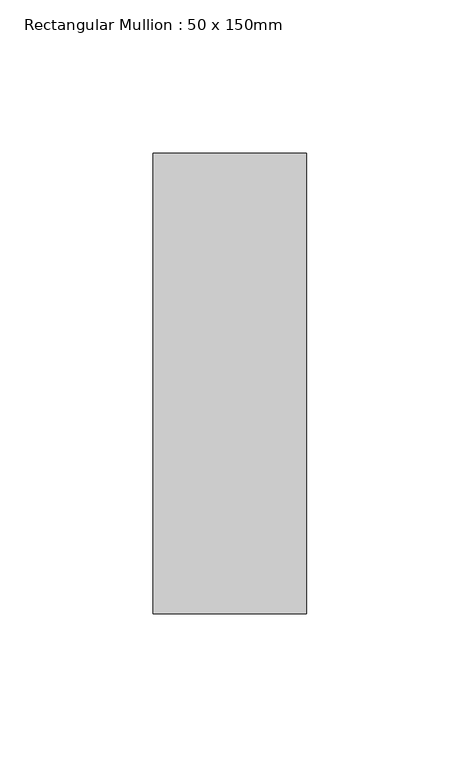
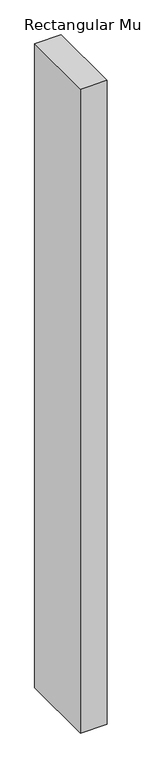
"""IFC4 building model written with IfcOpenShell, lengths in millimetres: member geometry, Rectangular Mullion : 50 x 150mm."""

from ifc_helpers import new_model, si_unit, frame, origin, place, context, project, spatial, polyline, outline, extrude, source, transform, mapped, element, save


def rectangular_mullion_50_x_150mm_40c7c722(model_context):
    return source(origin(), model_context, "Body", "SweptSolid", [
        extrude(outline(polyline([(25.0, 75.0), (25.0, -75.0), (-25.0, -75.0), (-25.0, 75.0), (25.0, 75.0)])), frame((0.0, 0.0, -1286.6666665), z_axis=(0.0, 0.0, 1.0), x_axis=(1.0, 0.0, 0.0)), (0.0, 0.0, 1.0), 1286.6666665),
    ])


if __name__ == "__main__":
    model = new_model("IFC4")
    model_context = context("Model", 3, world=origin())
    ifc_project = project(units=[si_unit("LENGTHUNIT", "METRE", prefix="MILLI")], contexts=[model_context])
    site = spatial("IfcSite", under=ifc_project)
    building = spatial("IfcBuilding", under=site)
    placement = place(None, origin())
    rectangular_mullion_50_x_150mm_shape = rectangular_mullion_50_x_150mm_40c7c722(model_context)
    element("IfcMember", 1, ObjectType="Rectangular Mullion : 50 x 150mm", at=placement, inside=building, context=model_context, shape_type="MappedRepresentation", body=[
        mapped(rectangular_mullion_50_x_150mm_shape, transform((0.0, 0.0, 0.0), x_axis=(1.0, 0.0, 0.0), y_axis=(0.0, 1.0, 0.0), z_axis=(0.0, 0.0, 1.0))),
    ])
    save(model, "model.ifc")
